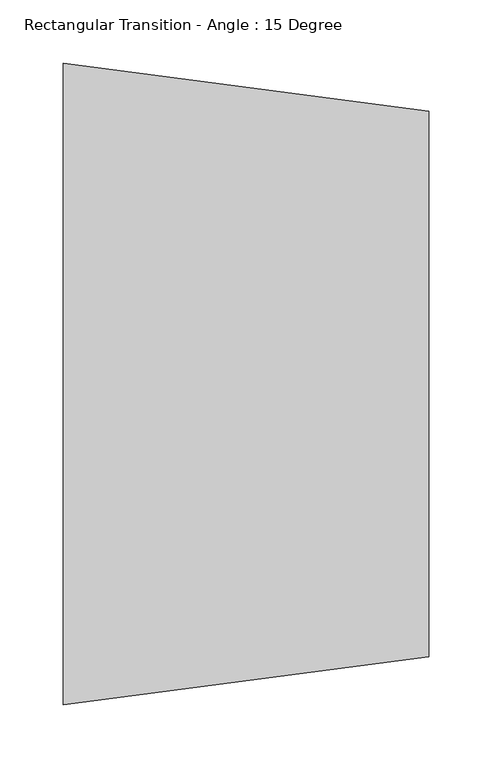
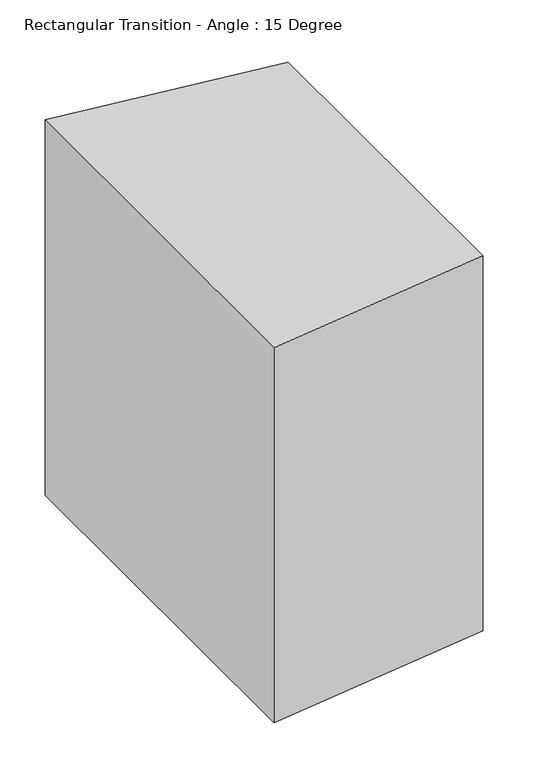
"""IFC4 building model written with IfcOpenShell, lengths in millimetres: duct fitting geometry, Rectangular Transition - Angle : 15 Degree."""

from ifc_helpers import new_model, si_unit, frame, origin, place, context, project, spatial, polyline, outline, extrude, source, transform, mapped, element, save


def rectangular_transition_angle_15_degree_a4915137(model_context):
    return source(origin(), model_context, "Body", "SweptSolid", [
        extrude(outline(polyline([(0.0, -254.0), (0.0, 254.0), (289.3982317, 215.9), (289.3982317, -215.9), (0.0, -254.0)])), frame((0.0, 0.0, -254.0), z_axis=(0.0, 0.0, 1.0), x_axis=(1.0, 0.0, 0.0)), (0.0, 0.0, 1.0), 508.0),
    ])


if __name__ == "__main__":
    model = new_model("IFC4")
    model_context = context("Model", 3, world=origin())
    ifc_project = project(units=[si_unit("LENGTHUNIT", "METRE", prefix="MILLI")], contexts=[model_context])
    site = spatial("IfcSite", under=ifc_project)
    building = spatial("IfcBuilding", under=site)
    placement = place(None, origin())
    rectangular_transition_angle_15_degree_shape = rectangular_transition_angle_15_degree_a4915137(model_context)
    element("IfcDuctFitting", 1, ObjectType="Rectangular Transition - Angle : 15 Degree", at=placement, inside=building, context=model_context, shape_type="MappedRepresentation", body=[
        mapped(rectangular_transition_angle_15_degree_shape, transform((0.0, 0.0, 0.0), x_axis=(1.0, 0.0, 0.0), y_axis=(0.0, 1.0, 0.0), z_axis=(0.0, 0.0, 1.0))),
    ])
    save(model, "model.ifc")
